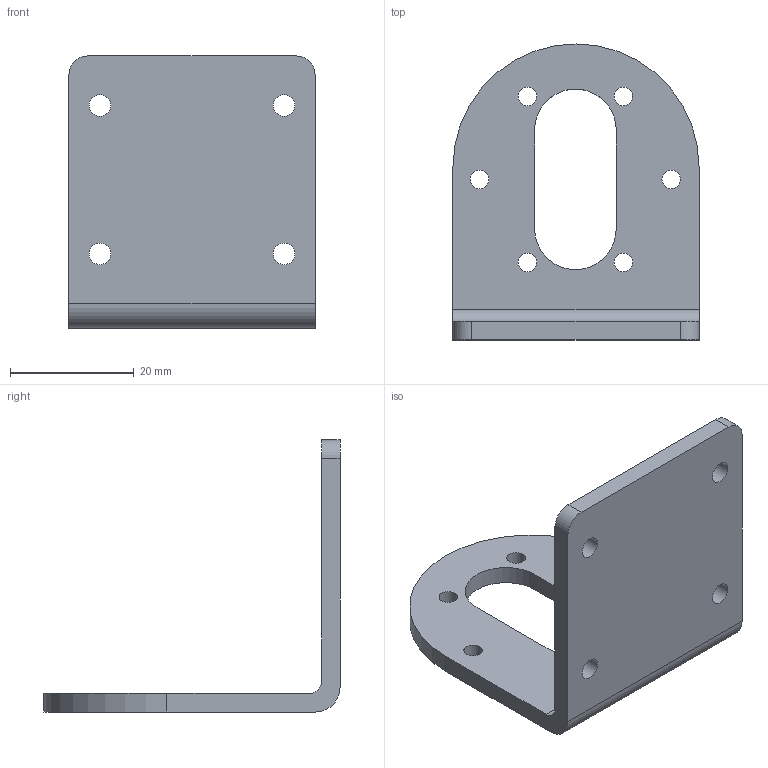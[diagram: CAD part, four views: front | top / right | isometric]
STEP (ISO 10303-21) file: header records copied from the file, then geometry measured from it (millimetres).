
FILE_DESCRIPTION(/* description */ (''),/* implementation_level */ '2;1');
FILE_NAME(/* name */ 'Fixtures.stp',/* time_stamp */ '2025-10-30T12:59:37+07:00',/* author */ ('quang'),/* organization */ (''),/* preprocessor_version */ 'ST-DEVELOPER v20',/* originating_system */ 'Autodesk Inventor 2024',/* authorisation */ '');
FILE_SCHEMA (('AUTOMOTIVE_DESIGN { 1 0 10303 214 3 1 1 }'));
Length unit declared in the file: millimetre
Products named in the file (1): Fixtures
Bounding box: 39.8 x 47.9 x 44 mm (x, y, z)
Volume: 8703.8 mm3; surface area: 6998.5 mm2
Topology: 1 solids, 1 shells, 26 faces, 72 edges, 48 vertices
Faces by surface type: cylinder 17, plane 9
Full cylindrical faces by diameter (mm): 3 x6, 3.5 x4
Entity records: 972 total; most frequent: DIRECTION 160, CARTESIAN_POINT 147, ORIENTED_EDGE 144, EDGE_CURVE 72, AXIS2_PLACEMENT_3D 61, EDGE_LOOP 48, VERTEX_POINT 48, LINE 38
